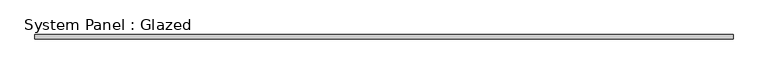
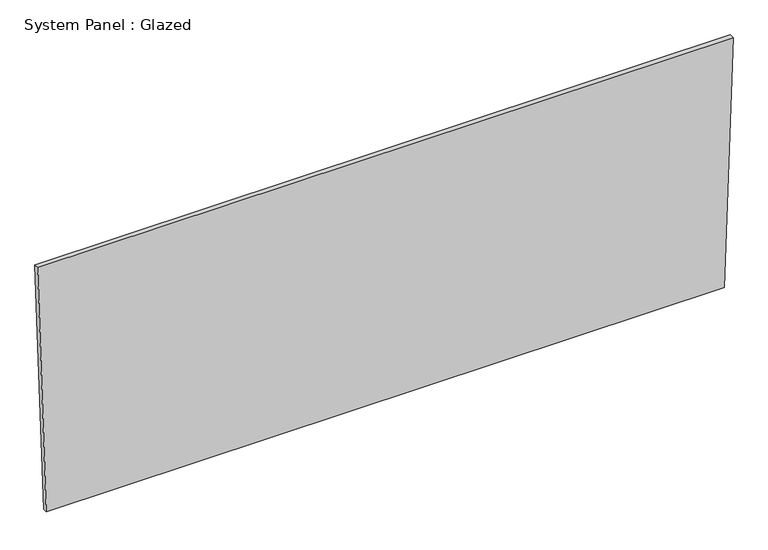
"""IFC4 building model written with IfcOpenShell, lengths in millimetres: plate geometry, System Panel : Glazed."""

from ifc_helpers import new_model, si_unit, frame, origin, place, context, project, spatial, polyline, outline, extrude, source, transform, mapped, element, save


def system_panel_glazed_d27af8dd(model_context):
    return source(origin(), model_context, "Body", "SweptSolid", [
        extrude(outline(polyline([(0.0, -1893.785838), (0.0, 1893.785838), (1459.6689838, 1942.0094035), (1459.6689838, -1942.0094035), (0.0, -1893.785838)])), frame((0.0, 19.05, 0.0), z_axis=(0.0, 1.0, 0.0), x_axis=(0.0, 0.0, 1.0)), (0.0, 0.0, 1.0), 25.4),
    ])


if __name__ == "__main__":
    model = new_model("IFC4")
    model_context = context("Model", 3, world=origin())
    ifc_project = project(units=[si_unit("LENGTHUNIT", "METRE", prefix="MILLI")], contexts=[model_context])
    site = spatial("IfcSite", under=ifc_project)
    building = spatial("IfcBuilding", under=site)
    placement = place(None, origin())
    system_panel_glazed_shape = system_panel_glazed_d27af8dd(model_context)
    element("IfcPlate", 1, ObjectType="System Panel : Glazed", at=placement, inside=building, context=model_context, shape_type="MappedRepresentation", body=[
        mapped(system_panel_glazed_shape, transform((0.0, 0.0, 0.0), x_axis=(1.0, 0.0, 0.0), y_axis=(0.0, 1.0, 0.0), z_axis=(0.0, 0.0, 1.0))),
    ])
    save(model, "model.ifc")
